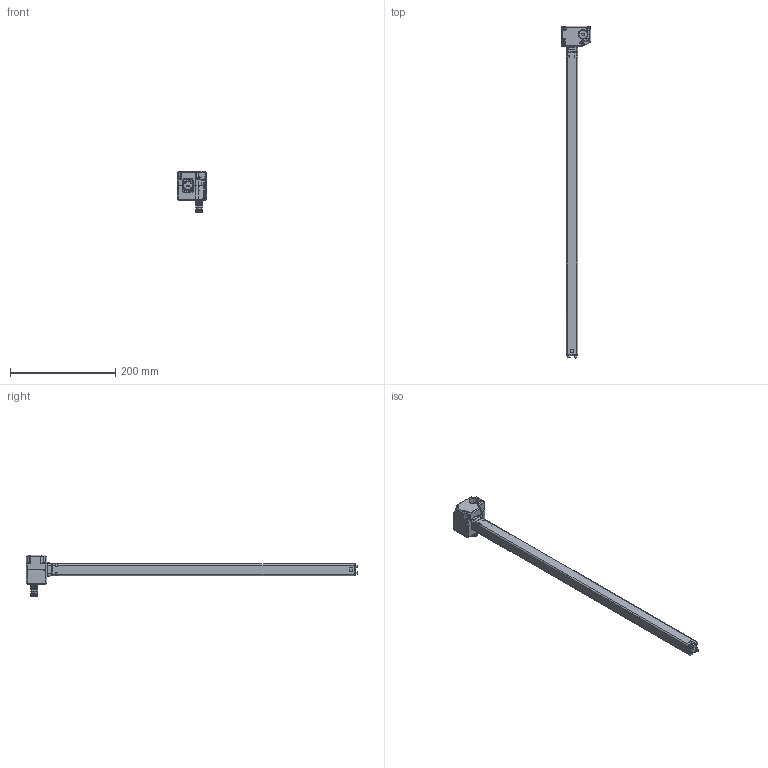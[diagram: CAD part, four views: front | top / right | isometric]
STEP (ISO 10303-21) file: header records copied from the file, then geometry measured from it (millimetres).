
FILE_DESCRIPTION (( 'STEP AP203' ), '1' );
FILE_NAME ('產品三維模型圖-TBS5（右）-A.STEP', '2018-07-20T02:46:44', ( '' ), ( '' ), 'SwSTEP 2.0', 'SolidWorks 2015', '' );
FILE_SCHEMA (( 'CONFIG_CONTROL_DESIGN' ));
Products named in the file (1): 產品三維模型圖-TBS5（右）-A
Bounding box: 56.12 x 631.5 x 78.75 mm (x, y, z)
Volume: 152123.8 mm3; surface area: 154989.8 mm2
Topology: 13 solids, 13 shells, 2594 faces, 7220 edges, 4681 vertices
Faces by surface type: cylinder 1353, plane 942, bspline 246, cone 53
Entity records: 104793 total; most frequent: CARTESIAN_POINT 39187, ORIENTED_EDGE 14392, DIRECTION 13437, EDGE_CURVE 7196, AXIS2_PLACEMENT_3D 4888, VERTEX_POINT 4681, LINE 3661, VECTOR 3661
